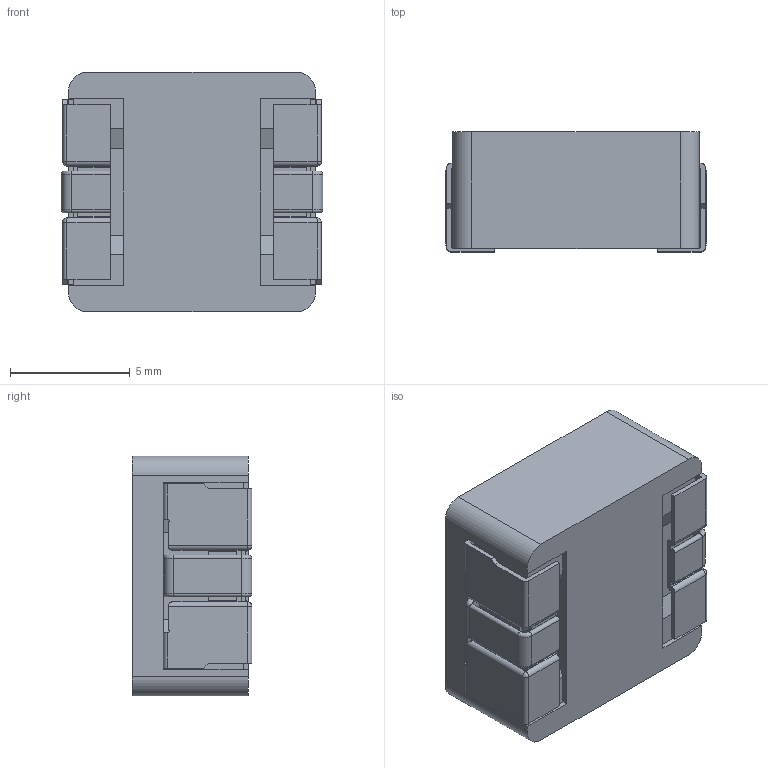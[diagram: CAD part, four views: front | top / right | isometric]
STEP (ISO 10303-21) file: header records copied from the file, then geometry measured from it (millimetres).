
FILE_DESCRIPTION (( 'STEP AP214' ), '1' );
FILE_NAME ('M1050-R68YLC_提出用.STEP', '2016-01-12T11:19:22', ( '' ), ( '' ), 'SwSTEP 2.0', 'SolidWorks 2014', '' );
FILE_SCHEMA (( 'AUTOMOTIVE_DESIGN' ));
Length unit declared in the file: millimetre
Products named in the file (2): M1050-R68YLC; M1050-R68YLC_提出用
Assembly tree (1 placements, depth 2):
  M1050-R68YLC_提出用
    M1050-R68YLC
Bounding box: 10.9 x 5 x 10 mm (x, y, z)
Volume: 484.5 mm3; surface area: 584.3 mm2
Topology: 1 solids, 1 shells, 208 faces, 566 edges, 344 vertices
Faces by surface type: plane 114, cylinder 82, torus 8, bspline 4
Entity records: 8920 total; most frequent: CARTESIAN_POINT 1306, ORIENTED_EDGE 1124, DIRECTION 1106, EDGE_CURVE 562, LINE 402, VECTOR 402, AXIS2_PLACEMENT_3D 352, VERTEX_POINT 344
